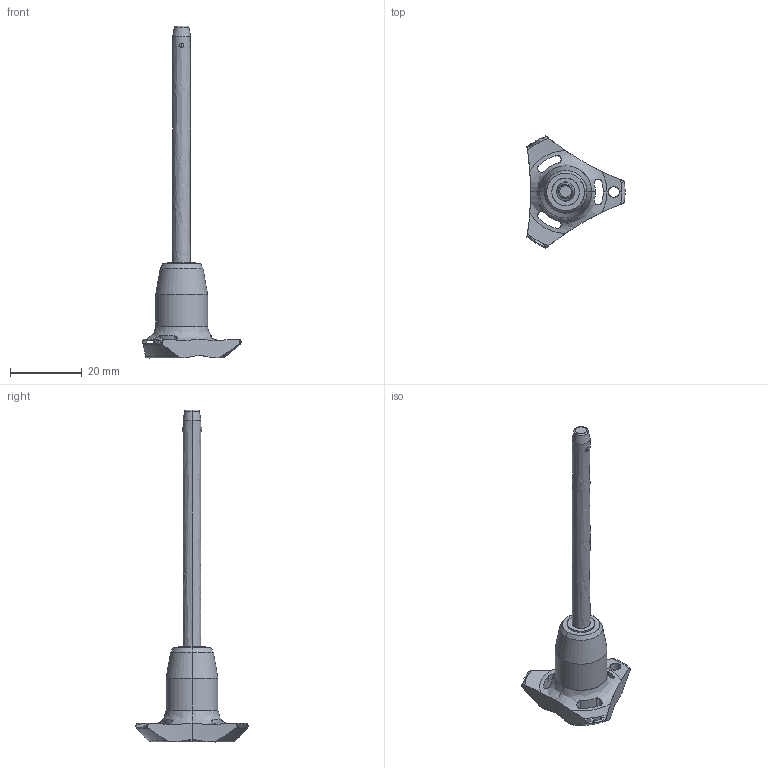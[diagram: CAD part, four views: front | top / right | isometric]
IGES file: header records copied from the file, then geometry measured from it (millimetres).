
Start section: SolidWorks IGES file using analytic representation for surfaces
Global section: file name: C:\Users\ianosborn\Desktop\QR1734_v2\QR1734_v2_20251113_IGES\QR1734.M05-060-S.igs; native system: SolidWorks 2019; preprocessor: SolidWorks 2019; author: IanOsborn; date: 251112.141416; units: millimetre
Bounding box: 27.4 x 31.31 x 92.7 mm (x, y, z)
Surface area: 3450.8 mm2 (no closed solid volume)
Topology: 0 solids, 0 shells, 66 faces, 1227 edges, 1208 vertices
Faces by surface type: revolution 50, bspline 16
